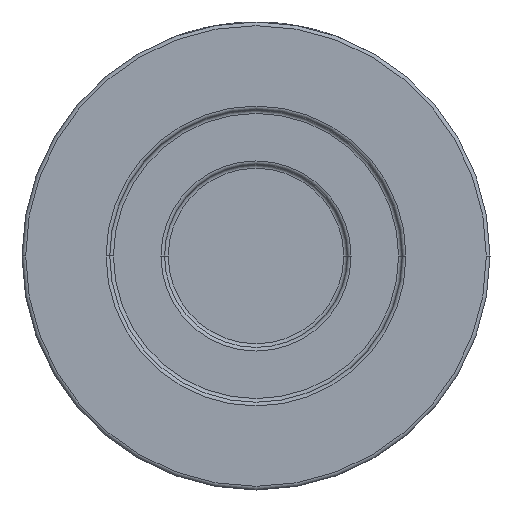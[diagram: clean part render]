
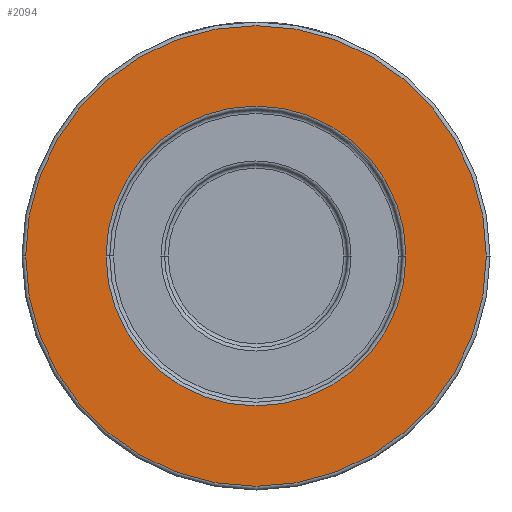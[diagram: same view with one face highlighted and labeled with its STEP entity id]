
A CAD part, front view. The second image highlights one B-rep face of the part: STEP entity #2094.
In plain terms, the highlighted planar face has unit normal (0, -1, 0).
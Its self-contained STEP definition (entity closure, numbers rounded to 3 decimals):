
#60 = ORIENTED_EDGE ( 'NONE', *, *, #610, .T. ) ;
#171 = CIRCLE ( 'NONE', #3653, 63. ) ;
#437 = DIRECTION ( 'NONE',  ( 0., 1., 0. ) ) ;
#610 = EDGE_CURVE ( 'NONE', #1016, #3264, #1680, .T. ) ;
#680 = ORIENTED_EDGE ( 'NONE', *, *, #3118, .T. ) ;
#936 = EDGE_LOOP ( 'NONE', ( #3992, #60 ) ) ;
#1016 = VERTEX_POINT ( 'NONE', #2653 ) ;
#1095 = DIRECTION ( 'NONE',  ( 1., 0., 0. ) ) ;
#1159 = AXIS2_PLACEMENT_3D ( 'NONE', #3973, #1400, #3585 ) ;
#1400 = DIRECTION ( 'NONE',  ( 0., -1., 0. ) ) ;
#1422 = PLANE ( 'NONE',  #2854 ) ;
#1680 = CIRCLE ( 'NONE', #4795, 41. ) ;
#1775 = CARTESIAN_POINT ( 'NONE',  ( -63., -45., 0. ) ) ;
#1789 = AXIS2_PLACEMENT_3D ( 'NONE', #4424, #437, #1095 ) ;
#1799 = DIRECTION ( 'NONE',  ( 0., 1., 0. ) ) ;
#2094 = ADVANCED_FACE ( 'NONE', ( #3631, #4750 ), #1422, .T. ) ;
#2179 = CARTESIAN_POINT ( 'NONE',  ( 41., -45., 0. ) ) ;
#2236 = VERTEX_POINT ( 'NONE', #1775 ) ;
#2346 = CARTESIAN_POINT ( 'NONE',  ( 0., -45., 0. ) ) ;
#2590 = CARTESIAN_POINT ( 'NONE',  ( 64., -45., 0. ) ) ;
#2653 = CARTESIAN_POINT ( 'NONE',  ( -41., -45., 0. ) ) ;
#2662 = DIRECTION ( 'NONE',  ( 0., -1., 0. ) ) ;
#2854 = AXIS2_PLACEMENT_3D ( 'NONE', #2590, #4383, #2899 ) ;
#2899 = DIRECTION ( 'NONE',  ( 1., 0., 0. ) ) ;
#2996 = CARTESIAN_POINT ( 'NONE',  ( 63., -45., 0. ) ) ;
#3026 = DIRECTION ( 'NONE',  ( 1., 0., 0. ) ) ;
#3118 = EDGE_CURVE ( 'NONE', #4566, #2236, #3874, .T. ) ;
#3148 = ORIENTED_EDGE ( 'NONE', *, *, #4053, .T. ) ;
#3264 = VERTEX_POINT ( 'NONE', #2179 ) ;
#3279 = CARTESIAN_POINT ( 'NONE',  ( 0., -45., 0. ) ) ;
#3585 = DIRECTION ( 'NONE',  ( 1., 0., 0. ) ) ;
#3631 = FACE_BOUND ( 'NONE', #936, .T. ) ;
#3650 = DIRECTION ( 'NONE',  ( 1., 0., 0. ) ) ;
#3653 = AXIS2_PLACEMENT_3D ( 'NONE', #2346, #2662, #3026 ) ;
#3874 = CIRCLE ( 'NONE', #1159, 63. ) ;
#3886 = CIRCLE ( 'NONE', #1789, 41. ) ;
#3973 = CARTESIAN_POINT ( 'NONE',  ( 0., -45., 0. ) ) ;
#3992 = ORIENTED_EDGE ( 'NONE', *, *, #4700, .T. ) ;
#4053 = EDGE_CURVE ( 'NONE', #2236, #4566, #171, .T. ) ;
#4344 = EDGE_LOOP ( 'NONE', ( #680, #3148 ) ) ;
#4383 = DIRECTION ( 'NONE',  ( 0., -1., 0. ) ) ;
#4424 = CARTESIAN_POINT ( 'NONE',  ( 0., -45., 0. ) ) ;
#4566 = VERTEX_POINT ( 'NONE', #2996 ) ;
#4700 = EDGE_CURVE ( 'NONE', #3264, #1016, #3886, .T. ) ;
#4750 = FACE_OUTER_BOUND ( 'NONE', #4344, .T. ) ;
#4795 = AXIS2_PLACEMENT_3D ( 'NONE', #3279, #1799, #3650 ) ;
